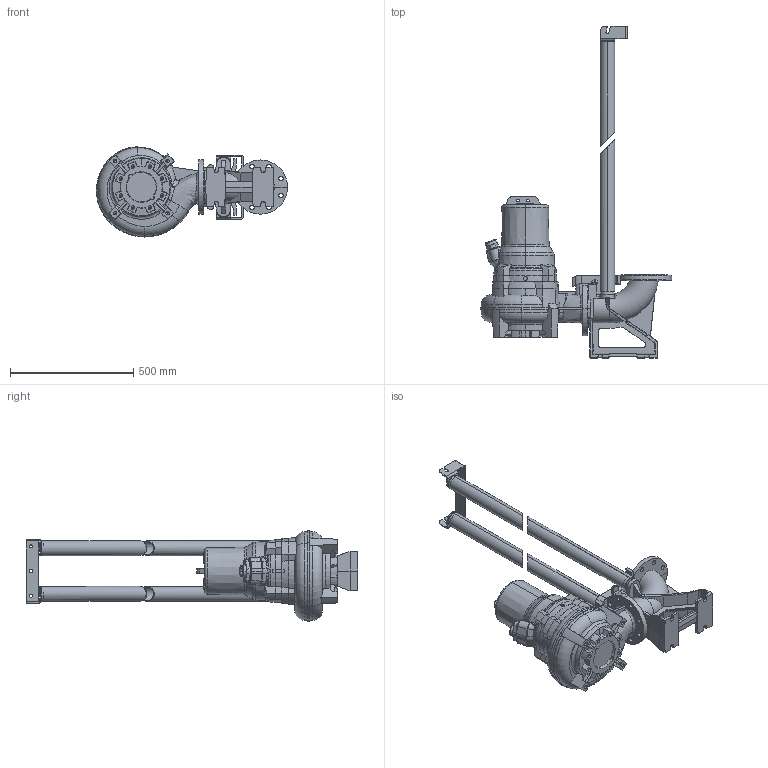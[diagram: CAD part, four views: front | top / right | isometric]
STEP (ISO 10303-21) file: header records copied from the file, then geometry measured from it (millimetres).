
FILE_DESCRIPTION (( 'STEP AP203' ), '1' );
FILE_NAME ('100FWC-M_5,5kW COUPLING SYSTEM.STEP', '2025-03-21T16:26:06', ( '' ), ( '' ), 'SwSTEP 2.0', 'SolidWorks 2023', '' );
FILE_SCHEMA (( 'CONFIG_CONTROL_DESIGN' ));
Length unit declared in the file: millimetre
Products named in the file (1): 100FWC-M_5,5kW COUPLING SYSTEM
Bounding box: 775.26 x 1345.76 x 365.91 mm (x, y, z)
Volume: 35412275.1 mm3; surface area: 2147121.5 mm2
Topology: 2 solids, 2 shells, 1011 faces, 2692 edges, 1715 vertices
Faces by surface type: plane 469, cylinder 203, cone 173, bspline 94, torus 65, sphere 7
Entity records: 40104 total; most frequent: CARTESIAN_POINT 15863, ORIENTED_EDGE 5360, DIRECTION 4690, EDGE_CURVE 2680, AXIS2_PLACEMENT_3D 1734, VERTEX_POINT 1715, LINE 1222, VECTOR 1222
